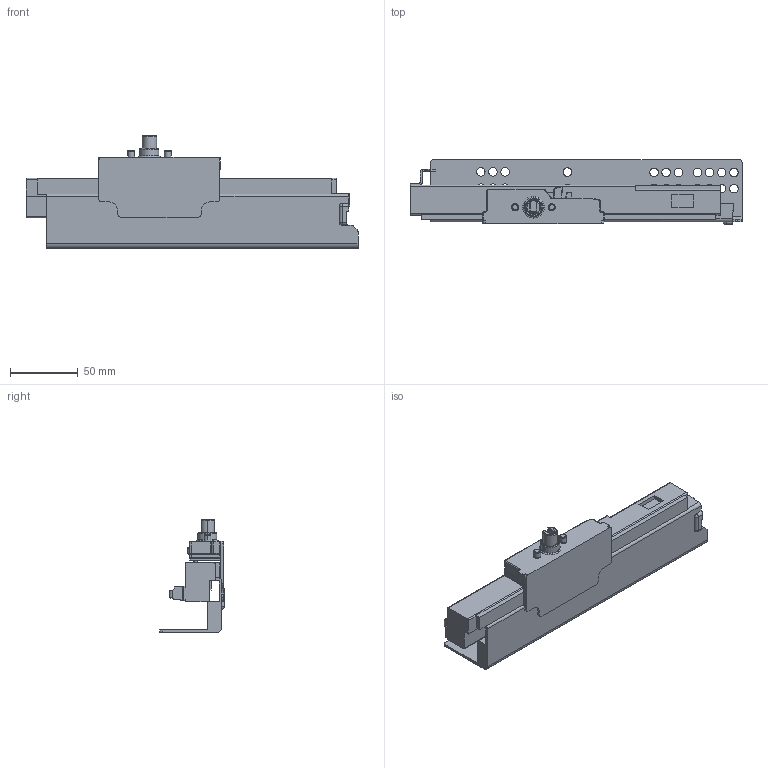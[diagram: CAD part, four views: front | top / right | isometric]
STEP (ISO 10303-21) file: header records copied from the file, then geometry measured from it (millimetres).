
FILE_DESCRIPTION (( 'STEP AP203' ), '1' );
FILE_NAME ('TF10250H-R-DTC3D-close.STEP', '2021-06-03T00:23:44', ( 'df' ), ( 'Microsoft' ), 'SwSTEP 2.0', 'SolidWorks 2018', '' );
FILE_SCHEMA (( 'CONFIG_CONTROL_DESIGN' ));
Length unit declared in the file: millimetre
Products named in the file (1): TF10250H-R-DTC3D-close
Bounding box: 245.27 x 48 x 83.3 mm (x, y, z)
Volume: 236331.2 mm3; surface area: 75643.3 mm2
Topology: 1 solids, 4 shells, 498 faces, 1281 edges, 787 vertices
Faces by surface type: cylinder 227, plane 163, bspline 102, sphere 4, torus 2
Entity records: 17292 total; most frequent: CARTESIAN_POINT 5415, ORIENTED_EDGE 2540, DIRECTION 2429, EDGE_CURVE 1270, AXIS2_PLACEMENT_3D 895, VERTEX_POINT 787, LINE 639, VECTOR 639
